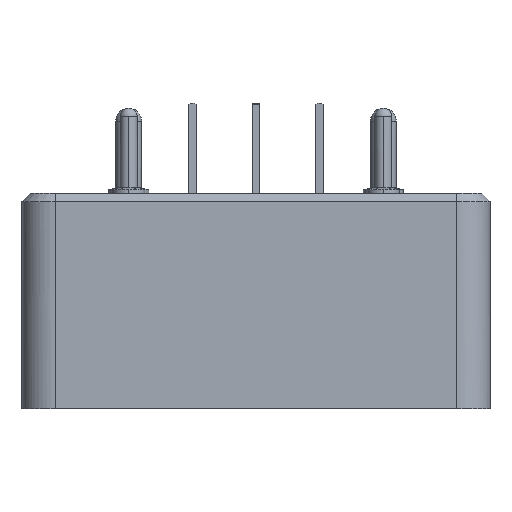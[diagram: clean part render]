
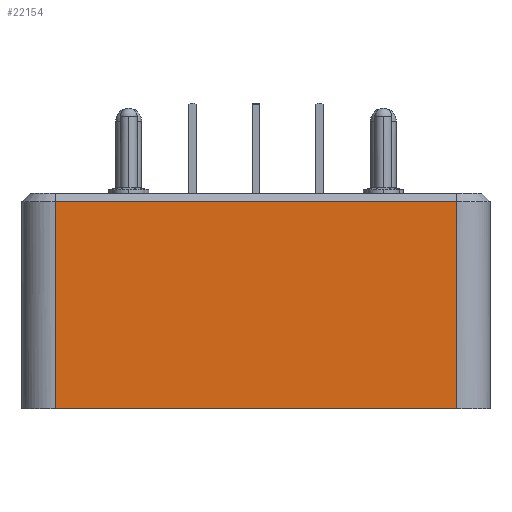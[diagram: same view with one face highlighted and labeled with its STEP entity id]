
A CAD part, left-side view. The second image highlights one B-rep face of the part: STEP entity #22154.
In plain terms, the highlighted planar face has unit normal (-1, 0, 0).
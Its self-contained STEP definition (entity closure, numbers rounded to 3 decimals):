
#935 = PLANE ( 'NONE',  #8237 ) ;
#940 = CARTESIAN_POINT ( 'NONE',  ( -1., 1., 2.5 ) ) ;
#1189 = VERTEX_POINT ( 'NONE', #23327 ) ;
#1893 = EDGE_CURVE ( 'NONE', #21879, #1189, #19000, .T. ) ;
#3055 = DIRECTION ( 'NONE',  ( 1., 0., 0. ) ) ;
#5979 = EDGE_CURVE ( 'NONE', #18399, #12390, #20476, .T. ) ;
#7103 = CARTESIAN_POINT ( 'NONE',  ( -1., 1., -9.9 ) ) ;
#7113 = CARTESIAN_POINT ( 'NONE',  ( -1., 25., 2.5 ) ) ;
#8237 = AXIS2_PLACEMENT_3D ( 'NONE', #20107, #3055, #22455 ) ;
#8340 = CARTESIAN_POINT ( 'NONE',  ( -1., 9., 2.5 ) ) ;
#8465 = CARTESIAN_POINT ( 'NONE',  ( -1., 17., 2.5 ) ) ;
#8765 = EDGE_LOOP ( 'NONE', ( #15244, #10780, #22382, #15734 ) ) ;
#9331 = CARTESIAN_POINT ( 'NONE',  ( -1., 1., -9.9 ) ) ;
#9539 = CARTESIAN_POINT ( 'NONE',  ( -1., 25., -9.9 ) ) ;
#10780 = ORIENTED_EDGE ( 'NONE', *, *, #5979, .F. ) ;
#12390 = VERTEX_POINT ( 'NONE', #13468 ) ;
#13468 = CARTESIAN_POINT ( 'NONE',  ( -1., 1., -9.9 ) ) ;
#14805 = CARTESIAN_POINT ( 'NONE',  ( -1., 25., -9.9 ) ) ;
#14947 = B_SPLINE_CURVE_WITH_KNOTS ( 'NONE', 3,
 ( #23756, #8465, #8340, #21916 ),
 .UNSPECIFIED., .F., .F.,
 ( 4, 4 ),
 ( 0., 1. ),
 .UNSPECIFIED. ) ;
#15244 = ORIENTED_EDGE ( 'NONE', *, *, #22857, .F. ) ;
#15734 = ORIENTED_EDGE ( 'NONE', *, *, #1893, .F. ) ;
#16912 = CARTESIAN_POINT ( 'NONE',  ( -1., 9., -9.9 ) ) ;
#17179 = B_SPLINE_CURVE_WITH_KNOTS ( 'NONE', 3,
 ( #9331, #16912, #20536, #14805 ),
 .UNSPECIFIED., .F., .F.,
 ( 4, 4 ),
 ( 0., 1. ),
 .UNSPECIFIED. ) ;
#18293 = CARTESIAN_POINT ( 'NONE',  ( -1., 1., 2.5 ) ) ;
#18399 = VERTEX_POINT ( 'NONE', #940 ) ;
#19000 = B_SPLINE_CURVE_WITH_KNOTS ( 'NONE', 3,
 ( #20302, #24131, #22517, #7113 ),
 .UNSPECIFIED., .F., .F.,
 ( 4, 4 ),
 ( 0., 1. ),
 .UNSPECIFIED. ) ;
#19858 = FACE_OUTER_BOUND ( 'NONE', #8765, .T. ) ;
#20107 = CARTESIAN_POINT ( 'NONE',  ( -1., 25., 3. ) ) ;
#20302 = CARTESIAN_POINT ( 'NONE',  ( -1., 25., -9.9 ) ) ;
#20476 = B_SPLINE_CURVE_WITH_KNOTS ( 'NONE', 3,
 ( #18293, #24002, #22152, #7103 ),
 .UNSPECIFIED., .F., .F.,
 ( 4, 4 ),
 ( 0., 1. ),
 .UNSPECIFIED. ) ;
#20536 = CARTESIAN_POINT ( 'NONE',  ( -1., 17., -9.9 ) ) ;
#21691 = EDGE_CURVE ( 'NONE', #1189, #18399, #14947, .T. ) ;
#21879 = VERTEX_POINT ( 'NONE', #9539 ) ;
#21916 = CARTESIAN_POINT ( 'NONE',  ( -1., 1., 2.5 ) ) ;
#22152 = CARTESIAN_POINT ( 'NONE',  ( -1., 1., -5.767 ) ) ;
#22154 = ADVANCED_FACE ( 'NONE', ( #19858 ), #935, .F. ) ;
#22382 = ORIENTED_EDGE ( 'NONE', *, *, #21691, .F. ) ;
#22455 = DIRECTION ( 'NONE',  ( 0., -1., 0. ) ) ;
#22517 = CARTESIAN_POINT ( 'NONE',  ( -1., 25., -1.633 ) ) ;
#22857 = EDGE_CURVE ( 'NONE', #12390, #21879, #17179, .T. ) ;
#23327 = CARTESIAN_POINT ( 'NONE',  ( -1., 25., 2.5 ) ) ;
#23756 = CARTESIAN_POINT ( 'NONE',  ( -1., 25., 2.5 ) ) ;
#24002 = CARTESIAN_POINT ( 'NONE',  ( -1., 1., -1.633 ) ) ;
#24131 = CARTESIAN_POINT ( 'NONE',  ( -1., 25., -5.767 ) ) ;
